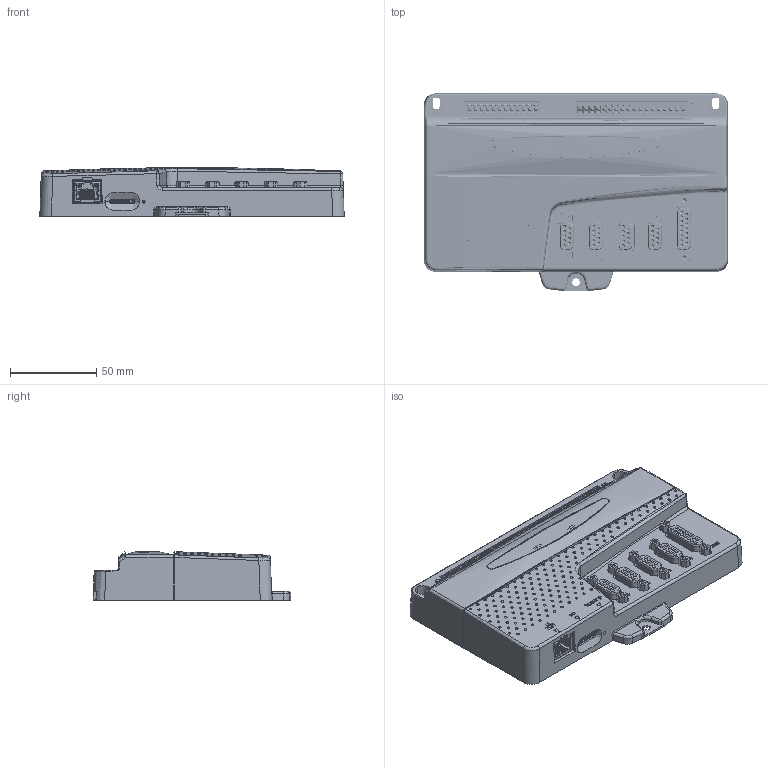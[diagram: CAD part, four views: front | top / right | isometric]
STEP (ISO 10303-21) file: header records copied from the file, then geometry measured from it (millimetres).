
FILE_DESCRIPTION(/* description */ (''),/* implementation_level */ '2;1');
FILE_NAME(/* name */ 'MC404',/* time_stamp */ '2020-09-24T10:30:51+01:00',/* author */ (''),/* organization */ (''),/* preprocessor_version */ 'ST-DEVELOPER v16.5',/* originating_system */ '',/* authorisation */ '');
FILE_SCHEMA (('AUTOMOTIVE_DESIGN'));
Products named in the file (1): Document
Bounding box: 176.52 x 114.69 x 28.2 mm (x, y, z)
Volume: 36371.7 mm3; surface area: 157268.8 mm2
Topology: 75 solids, 5818 shells, 11689 faces, 46102 edges, 39596 vertices
Faces by surface type: plane 6625, bspline 5064
Entity records: 674355 total; most frequent: CARTESIAN_POINT 370941, ORIENTED_EDGE 60720, EDGE_CURVE 45845, VERTEX_POINT 39596, B_SPLINE_CURVE_WITH_KNOTS 35571, EDGE_LOOP 12596, ADVANCED_FACE 11689, FACE_OUTER_BOUND 11689
